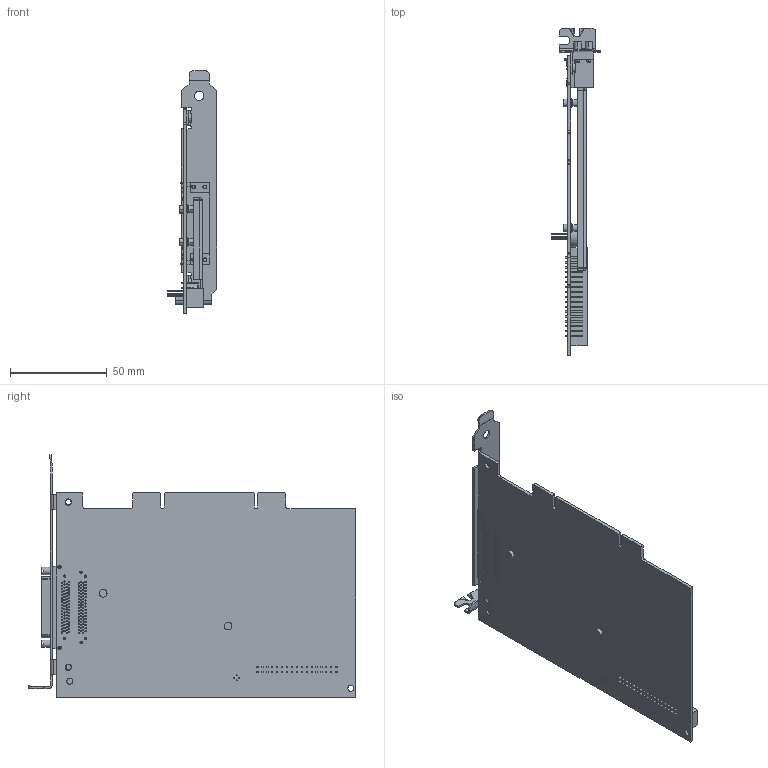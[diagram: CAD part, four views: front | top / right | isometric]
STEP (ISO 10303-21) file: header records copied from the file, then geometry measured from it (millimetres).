
FILE_DESCRIPTION((''),'2;1');
FILE_NAME('CU-PCI-2VHDCI','2008-05-08T',('chrisj'),(''),'PRO/ENGINEER BY PARAMETRIC TECHNOLOGY CORPORATION, 2006300','PRO/ENGINEER BY PARAMETRIC TECHNOLOGY CORPORATION, 2006300','');
FILE_SCHEMA(('AUTOMOTIVE_DESIGN_CC2 { 1 2 10303 214 -1 1 5 2 }'));
Length unit declared in the file: inch
Products named in the file (1): CU-PCI-2VHDCI
Bounding box: 25.73 x 169.49 x 125.41 mm (x, y, z)
Volume: 44706.5 mm3; surface area: 56740.9 mm2
Topology: 1 solids, 1 shells, 1491 faces, 3606 edges, 2338 vertices
Faces by surface type: plane 909, cylinder 554, cone 16, torus 8, bspline 4
Entity records: 44317 total; most frequent: CARTESIAN_POINT 8157, DIRECTION 7648, ORIENTED_EDGE 7212, EDGE_CURVE 3606, AXIS2_PLACEMENT_3D 2617, VECTOR 2414, LINE 2414, VERTEX_POINT 2338
